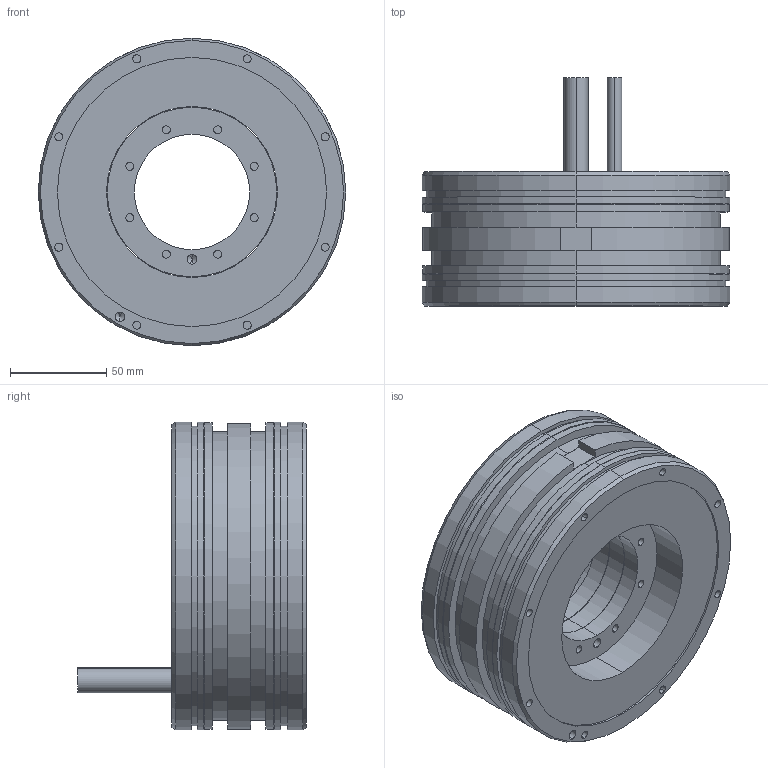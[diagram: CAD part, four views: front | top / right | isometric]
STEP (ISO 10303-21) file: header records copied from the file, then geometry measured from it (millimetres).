
FILE_DESCRIPTION (( 'STEP AP203' ), '1' );
FILE_NAME ('TM-2-13.STEP', '2020-10-20T05:28:05', ( '' ), ( '' ), 'SwSTEP 2.0', 'SolidWorks 2015', '' );
FILE_SCHEMA (( 'CONFIG_CONTROL_DESIGN' ));
Length unit declared in the file: millimetre
Products named in the file (3): TM-2-13; TM-2-1X_rotor_TM-2-13_rotor; TM-2-1X_stator_TM-2-13_stator
Assembly tree (2 placements, depth 2):
  TM-2-13
    TM-2-1X_stator_TM-2-13_stator
    TM-2-1X_rotor_TM-2-13_rotor
Bounding box: 160 x 119 x 160 mm (x, y, z)
Volume: 1007368.6 mm3; surface area: 124831.6 mm2
Topology: 2 solids, 2 shells, 181 faces, 375 edges, 238 vertices
Faces by surface type: cylinder 112, plane 53, cone 16
Entity records: 5142 total; most frequent: DIRECTION 967, CARTESIAN_POINT 791, ORIENTED_EDGE 734, AXIS2_PLACEMENT_3D 414, EDGE_CURVE 367, VERTEX_POINT 238, EDGE_LOOP 233, CIRCLE 228
